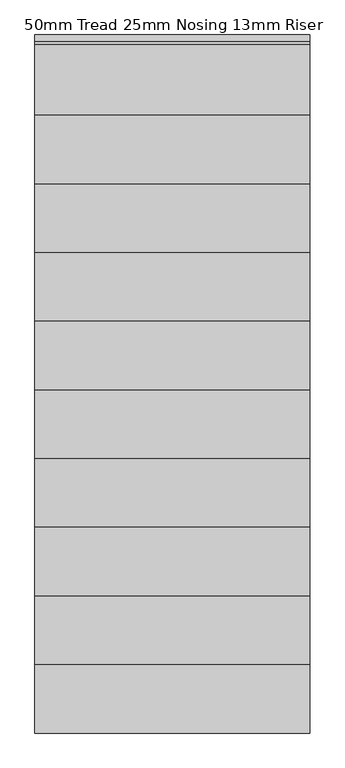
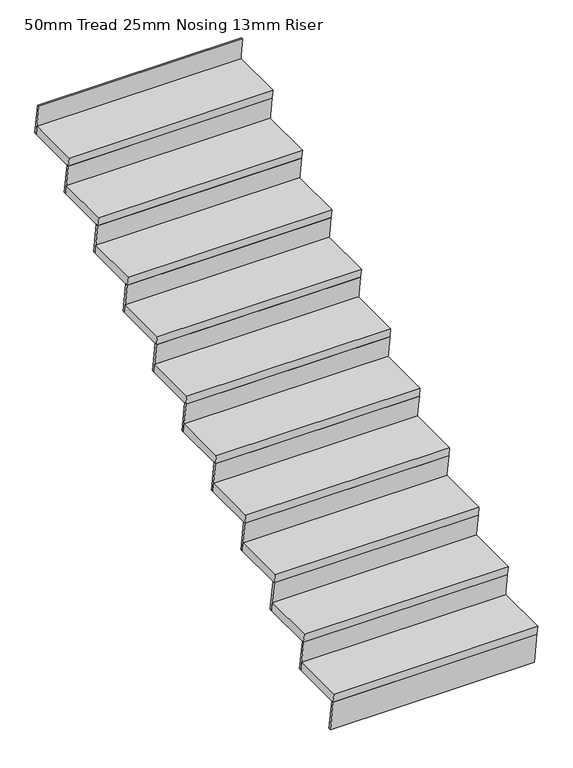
"""IFC4 building model written with IfcOpenShell, lengths in millimetres: stair flight geometry, 50mm Tread 25mm Nosing 13mm Riser."""

from ifc_helpers import new_model, si_unit, frame, origin, place, context, project, spatial, polyline, outline, extrude, source, transform, mapped, element, save


def stair_flight_50mm_tread_25mm_nosing_13mm_riser_2cacd5da(model_context):
    return source(origin(), model_context, "Body", "SweptSolid", [
        extrude(outline(polyline([(-22015.7006057, 2072.7272727), (-21715.7006057, 2072.7272727), (-21708.4637636, 2022.7272727), (-22008.4637636, 2022.7272727), (-22015.7006057, 2072.7272727)])), frame((55549.1173382, 0.0, 0.0), z_axis=(1.0, 0.0, 0.0), x_axis=(0.0, 1.0, 0.0)), (0.0, 0.0, 1.0), 1100.0),
        extrude(outline(polyline([(-22008.4637636, 2022.7272727), (-21995.8335125, 2022.7272727), (-21970.8335125, 1850.0), (-21983.4637636, 1850.0), (-22008.4637636, 2022.7272727)])), frame((55549.1173382, 0.0, 0.0), z_axis=(1.0, 0.0, 0.0), x_axis=(0.0, 1.0, 0.0)), (0.0, 0.0, 1.0), 1100.0),
        extrude(outline(polyline([(-21733.4637636, 2195.4545455), (-21720.8335125, 2195.4545455), (-21695.8335125, 2022.7272727), (-21708.4637636, 2022.7272727), (-21733.4637636, 2195.4545455)])), frame((55549.1173382, 0.0, 0.0), z_axis=(1.0, 0.0, 0.0), x_axis=(0.0, 1.0, 0.0)), (0.0, 0.0, 1.0), 1100.0),
        extrude(outline(polyline([(-21740.7006057, 2245.4545455), (-21440.7006057, 2245.4545455), (-21433.4637636, 2195.4545455), (-21733.4637636, 2195.4545455), (-21740.7006057, 2245.4545455)])), frame((55549.1173382, 0.0, 0.0), z_axis=(1.0, 0.0, 0.0), x_axis=(0.0, 1.0, 0.0)), (0.0, 0.0, 1.0), 1100.0),
        extrude(outline(polyline([(-21458.4637636, 2368.1818182), (-21445.8335125, 2368.1818182), (-21420.8335125, 2195.4545455), (-21433.4637636, 2195.4545455), (-21458.4637636, 2368.1818182)])), frame((55549.1173382, 0.0, 0.0), z_axis=(1.0, 0.0, 0.0), x_axis=(0.0, 1.0, 0.0)), (0.0, 0.0, 1.0), 1100.0),
        extrude(outline(polyline([(-21465.7006057, 2418.1818182), (-21165.7006057, 2418.1818182), (-21158.4637636, 2368.1818182), (-21458.4637636, 2368.1818182), (-21465.7006057, 2418.1818182)])), frame((55549.1173382, 0.0, 0.0), z_axis=(1.0, 0.0, 0.0), x_axis=(0.0, 1.0, 0.0)), (0.0, 0.0, 1.0), 1100.0),
        extrude(outline(polyline([(-21183.4637636, 2540.9090909), (-21170.8335125, 2540.9090909), (-21145.8335125, 2368.1818182), (-21158.4637636, 2368.1818182), (-21183.4637636, 2540.9090909)])), frame((55549.1173382, 0.0, 0.0), z_axis=(1.0, 0.0, 0.0), x_axis=(0.0, 1.0, 0.0)), (0.0, 0.0, 1.0), 1100.0),
        extrude(outline(polyline([(-21190.7006057, 2590.9090909), (-20890.7006057, 2590.9090909), (-20883.4637636, 2540.9090909), (-21183.4637636, 2540.9090909), (-21190.7006057, 2590.9090909)])), frame((55549.1173382, 0.0, 0.0), z_axis=(1.0, 0.0, 0.0), x_axis=(0.0, 1.0, 0.0)), (0.0, 0.0, 1.0), 1100.0),
        extrude(outline(polyline([(-20908.4637636, 2713.6363636), (-20895.8335125, 2713.6363636), (-20870.8335125, 2540.9090909), (-20883.4637636, 2540.9090909), (-20908.4637636, 2713.6363636)])), frame((55549.1173382, 0.0, 0.0), z_axis=(1.0, 0.0, 0.0), x_axis=(0.0, 1.0, 0.0)), (0.0, 0.0, 1.0), 1100.0),
        extrude(outline(polyline([(-20915.7006057, 2763.6363636), (-20615.7006057, 2763.6363636), (-20608.4637636, 2713.6363636), (-20908.4637636, 2713.6363636), (-20915.7006057, 2763.6363636)])), frame((55549.1173382, 0.0, 0.0), z_axis=(1.0, 0.0, 0.0), x_axis=(0.0, 1.0, 0.0)), (0.0, 0.0, 1.0), 1100.0),
        extrude(outline(polyline([(-20633.4637636, 2886.3636364), (-20620.8335125, 2886.3636364), (-20595.8335125, 2713.6363636), (-20608.4637636, 2713.6363636), (-20633.4637636, 2886.3636364)])), frame((55549.1173382, 0.0, 0.0), z_axis=(1.0, 0.0, 0.0), x_axis=(0.0, 1.0, 0.0)), (0.0, 0.0, 1.0), 1100.0),
        extrude(outline(polyline([(-20640.7006057, 2936.3636364), (-20340.7006057, 2936.3636364), (-20333.4637636, 2886.3636364), (-20633.4637636, 2886.3636364), (-20640.7006057, 2936.3636364)])), frame((55549.1173382, 0.0, 0.0), z_axis=(1.0, 0.0, 0.0), x_axis=(0.0, 1.0, 0.0)), (0.0, 0.0, 1.0), 1100.0),
        extrude(outline(polyline([(-20358.4637636, 3059.0909091), (-20345.8335125, 3059.0909091), (-20320.8335125, 2886.3636364), (-20333.4637636, 2886.3636364), (-20358.4637636, 3059.0909091)])), frame((55549.1173382, 0.0, 0.0), z_axis=(1.0, 0.0, 0.0), x_axis=(0.0, 1.0, 0.0)), (0.0, 0.0, 1.0), 1100.0),
        extrude(outline(polyline([(-20365.7006057, 3109.0909091), (-20065.7006057, 3109.0909091), (-20058.4637636, 3059.0909091), (-20358.4637636, 3059.0909091), (-20365.7006057, 3109.0909091)])), frame((55549.1173382, 0.0, 0.0), z_axis=(1.0, 0.0, 0.0), x_axis=(0.0, 1.0, 0.0)), (0.0, 0.0, 1.0), 1100.0),
        extrude(outline(polyline([(-20083.4637636, 3231.8181818), (-20070.8335125, 3231.8181818), (-20045.8335125, 3059.0909091), (-20058.4637636, 3059.0909091), (-20083.4637636, 3231.8181818)])), frame((55549.1173382, 0.0, 0.0), z_axis=(1.0, 0.0, 0.0), x_axis=(0.0, 1.0, 0.0)), (0.0, 0.0, 1.0), 1100.0),
        extrude(outline(polyline([(-20090.7006057, 3281.8181818), (-19790.7006057, 3281.8181818), (-19783.4637636, 3231.8181818), (-20083.4637636, 3231.8181818), (-20090.7006057, 3281.8181818)])), frame((55549.1173382, 0.0, 0.0), z_axis=(1.0, 0.0, 0.0), x_axis=(0.0, 1.0, 0.0)), (0.0, 0.0, 1.0), 1100.0),
        extrude(outline(polyline([(-19808.4637636, 3404.5454545), (-19795.8335125, 3404.5454545), (-19770.8335125, 3231.8181818), (-19783.4637636, 3231.8181818), (-19808.4637636, 3404.5454545)])), frame((55549.1173382, 0.0, 0.0), z_axis=(1.0, 0.0, 0.0), x_axis=(0.0, 1.0, 0.0)), (0.0, 0.0, 1.0), 1100.0),
        extrude(outline(polyline([(-19815.7006057, 3454.5454545), (-19515.7006057, 3454.5454545), (-19508.4637636, 3404.5454545), (-19808.4637636, 3404.5454545), (-19815.7006057, 3454.5454545)])), frame((55549.1173382, 0.0, 0.0), z_axis=(1.0, 0.0, 0.0), x_axis=(0.0, 1.0, 0.0)), (0.0, 0.0, 1.0), 1100.0),
        extrude(outline(polyline([(-19533.4637636, 3577.2727273), (-19520.8335125, 3577.2727273), (-19495.8335125, 3404.5454545), (-19508.4637636, 3404.5454545), (-19533.4637636, 3577.2727273)])), frame((55549.1173382, 0.0, 0.0), z_axis=(1.0, 0.0, 0.0), x_axis=(0.0, 1.0, 0.0)), (0.0, 0.0, 1.0), 1100.0),
        extrude(outline(polyline([(-19258.4637636, 3750.0), (-19245.8335125, 3750.0), (-19220.8335125, 3577.2727273), (-19233.4637636, 3577.2727273), (-19258.4637636, 3750.0)])), frame((55549.1173382, 0.0, 0.0), z_axis=(1.0, 0.0, 0.0), x_axis=(0.0, 1.0, 0.0)), (0.0, 0.0, 1.0), 1100.0),
        extrude(outline(polyline([(-19540.7006057, 3627.2727273), (-19240.7006057, 3627.2727273), (-19233.4637636, 3577.2727273), (-19533.4637636, 3577.2727273), (-19540.7006057, 3627.2727273)])), frame((55549.1173382, 0.0, 0.0), z_axis=(1.0, 0.0, 0.0), x_axis=(0.0, 1.0, 0.0)), (0.0, 0.0, 1.0), 1100.0),
    ])


if __name__ == "__main__":
    model = new_model("IFC4")
    model_context = context("Model", 3, world=origin())
    ifc_project = project(units=[si_unit("LENGTHUNIT", "METRE", prefix="MILLI")], contexts=[model_context])
    site = spatial("IfcSite", under=ifc_project)
    building = spatial("IfcBuilding", under=site)
    placement = place(None, origin())
    stair_flight_50mm_tread_25mm_nosing_13mm_riser_shape = stair_flight_50mm_tread_25mm_nosing_13mm_riser_2cacd5da(model_context)
    element("IfcStairFlight", 1, ObjectType="50mm Tread 25mm Nosing 13mm Riser", at=placement, inside=building, context=model_context, shape_type="MappedRepresentation", body=[
        mapped(stair_flight_50mm_tread_25mm_nosing_13mm_riser_shape, transform((0.0, 0.0, 0.0), x_axis=(1.0, 0.0, 0.0), y_axis=(0.0, 1.0, 0.0), z_axis=(0.0, 0.0, 1.0))),
    ])
    save(model, "model.ifc")
